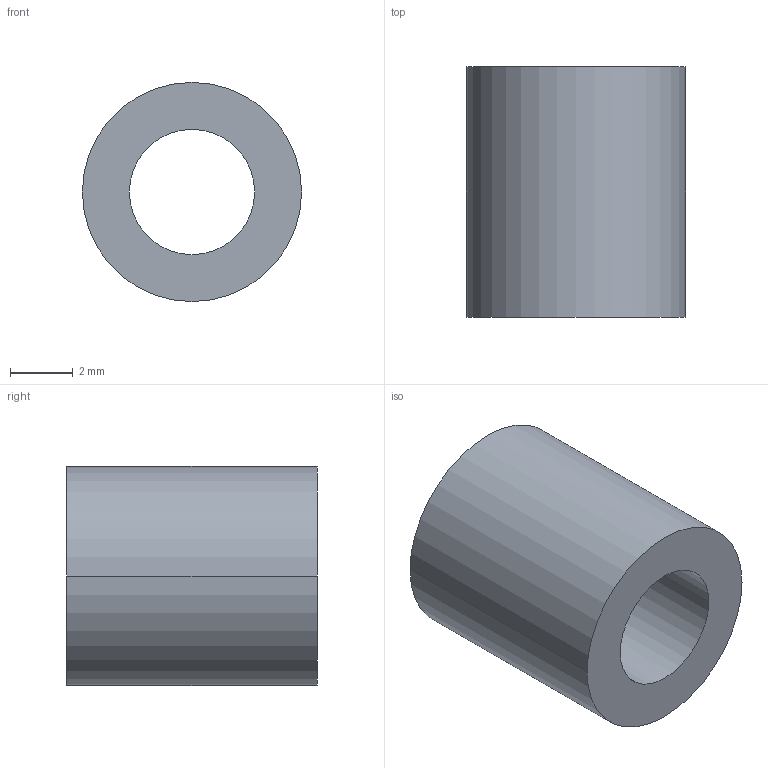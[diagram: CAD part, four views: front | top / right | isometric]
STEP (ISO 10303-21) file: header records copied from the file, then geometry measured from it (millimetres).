
FILE_DESCRIPTION (( 'STEP AP203' ), '1' );
FILE_NAME ('30800.WPP7B4.0.step', '2019-01-23T22:20:09', ( '' ), ( '' ), 'SwSTEP 2.0', 'SolidWorks 2017', '' );
FILE_SCHEMA (( 'CONFIG_CONTROL_DESIGN' ));
Length unit declared in the file: millimetre
Products named in the file (1): 30800.WPP7B4.0
Bounding box: 7 x 8 x 7 mm (x, y, z)
Volume: 204.3 mm3; surface area: 323.3 mm2
Topology: 1 solids, 1 shells, 8 faces, 16 edges, 10 vertices
Faces by surface type: cylinder 4, torus 2, plane 2
Entity records: 297 total; most frequent: DIRECTION 46, CARTESIAN_POINT 35, ORIENTED_EDGE 32, AXIS2_PLACEMENT_3D 21, EDGE_CURVE 16, CIRCLE 12, VERTEX_POINT 10, EDGE_LOOP 10
